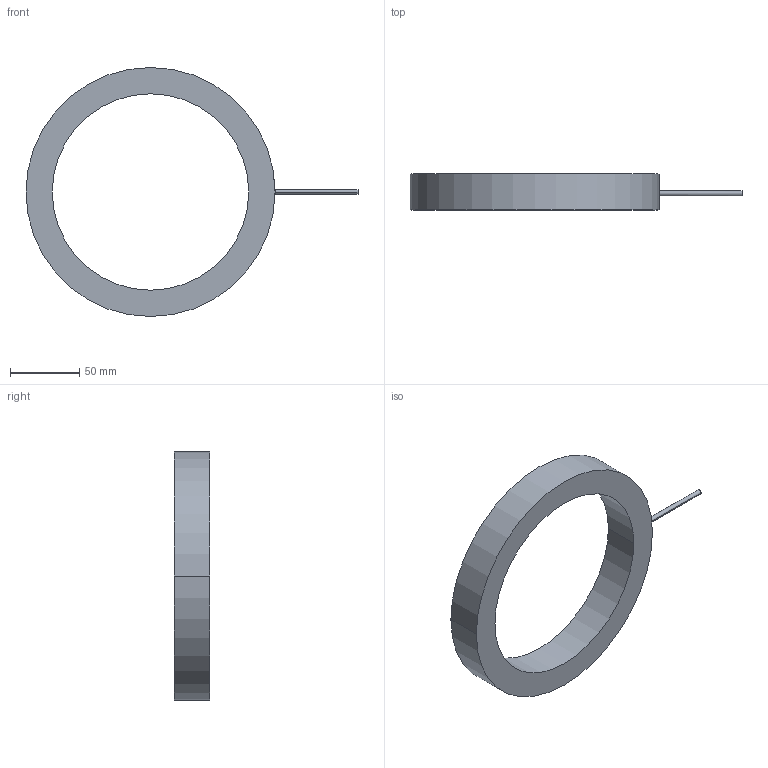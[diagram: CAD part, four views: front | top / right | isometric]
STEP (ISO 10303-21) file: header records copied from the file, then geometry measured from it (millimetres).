
FILE_DESCRIPTION((''),'2;1');
FILE_NAME('MV-LRDS-180-15-W','2020-11-03T',('win7'),(''),'PRO/ENGINEER BY PARAMETRIC TECHNOLOGY CORPORATION, 2010100','PRO/ENGINEER BY PARAMETRIC TECHNOLOGY CORPORATION, 2010100','');
FILE_SCHEMA(('CONFIG_CONTROL_DESIGN'));
Length unit declared in the file: millimetre
Products named in the file (1): MV-LRDS-180-15-W
Bounding box: 239.97 x 26 x 180 mm (x, y, z)
Volume: 250288.2 mm3; surface area: 46654.8 mm2
Topology: 1 solids, 5 shells, 37 faces, 91 edges, 56 vertices
Faces by surface type: cylinder 22, cone 8, plane 7
Entity records: 1118 total; most frequent: DIRECTION 207, CARTESIAN_POINT 197, ORIENTED_EDGE 150, AXIS2_PLACEMENT_3D 88, EDGE_CURVE 83, VERTEX_POINT 56, CIRCLE 50, EDGE_LOOP 47
